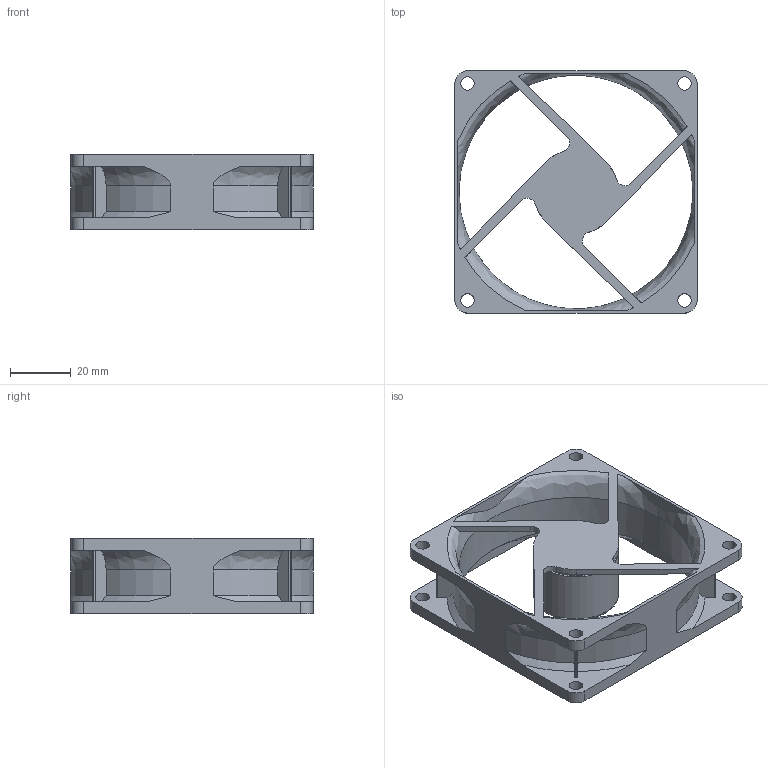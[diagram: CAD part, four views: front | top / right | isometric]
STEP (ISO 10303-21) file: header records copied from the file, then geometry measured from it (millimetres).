
FILE_DESCRIPTION (( 'STEP AP203' ), '1' );
FILE_NAME ('80mm case fan.STEP', '2025-02-12T19:30:07', ( '' ), ( '' ), 'SwSTEP 2.0', 'SolidWorks 2023', '' );
FILE_SCHEMA (( 'CONFIG_CONTROL_DESIGN' ));
Length unit declared in the file: millimetre
Products named in the file (1): 80mm case fan
Bounding box: 80 x 80 x 25 mm (x, y, z)
Volume: 33498.7 mm3; surface area: 22800.7 mm2
Topology: 1 solids, 1 shells, 124 faces, 363 edges, 240 vertices
Faces by surface type: cylinder 57, plane 45, bspline 10, cone 10, torus 2
Entity records: 5342 total; most frequent: CARTESIAN_POINT 1972, ORIENTED_EDGE 726, DIRECTION 661, EDGE_CURVE 363, AXIS2_PLACEMENT_3D 251, VERTEX_POINT 240, VECTOR 159, LINE 159
